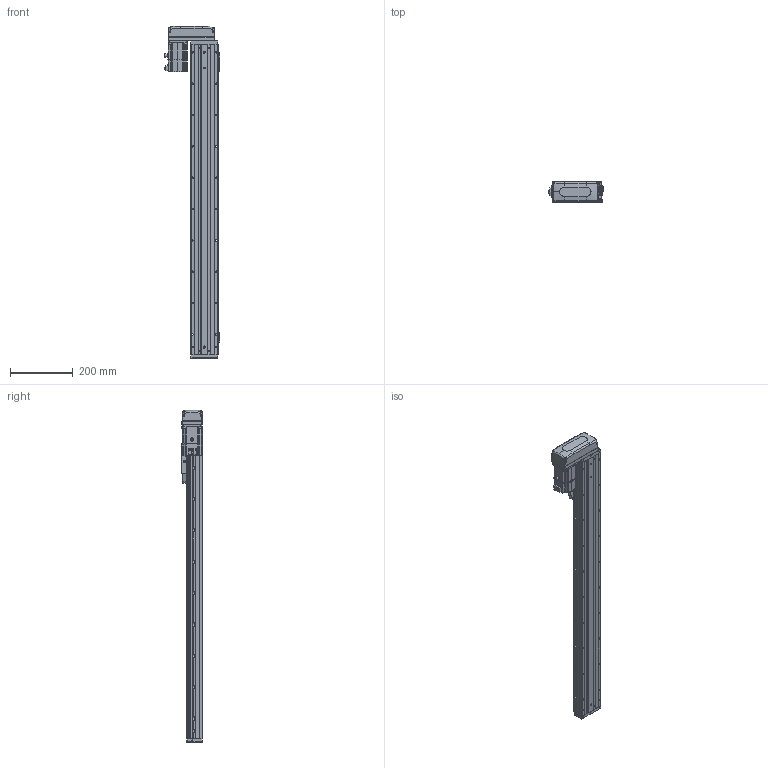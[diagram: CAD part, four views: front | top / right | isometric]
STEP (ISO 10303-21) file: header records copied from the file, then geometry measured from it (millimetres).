
FILE_DESCRIPTION (( 'STEP AP203' ), '1' );
FILE_NAME ('CTHA86-800-BR-M20-C4L.step', '2022-04-26T01:01:19', ( '微软用户' ), ( '微软中国' ), 'SwSTEP 2.0', 'SolidWorks 2020', '' );
FILE_SCHEMA (( 'CONFIG_CONTROL_DESIGN' ));
Length unit declared in the file: millimetre
Products named in the file (21): EE_SX911P_R; CTHA86-033; _X2_4E0983F1_X0_200W_1; CTHA60-017; CTHA86-800-BR-M20-C4L; CTHA86-002; CTHA60-021; KTHA86-001_990; CTHA86-031; GBT77-2000 M3×3; KTHA86-004; CTHA86-030; GBT 70.1-M3×20; KTHA86-005; GBT 70.3-M3℅6; GBT70.1 M5℅16; GBT 70.1-M3℅6; GB¨uT 70.2-M3¡Á5_M3¡Á6; CTHA86-015-1_CTHA86-015-2; GBT 70.1-M3×16; CTHA60-016
Assembly tree (66 placements, depth 2):
  CTHA86-800-BR-M20-C4L
    KTHA86-001_990
    KTHA86-004
    KTHA86-005
    GB¨uT 70.2-M3¡Á5_M3¡Á6  x10
    EE_SX911P_R  x3
    CTHA60-017  x3
    CTHA60-021  x2
    GBT77-2000 M3×3  x6
    GBT 70.1-M3×20
    GBT70.1 M5℅16  x14
    GBT 70.1-M3×16  x5
    GBT 70.1-M3℅6  x6
    CTHA60-016  x2
    _X2_4E0983F1_X0_200W_1
    CTHA86-002
    CTHA86-031
    CTHA86-030  x2
    GBT 70.3-M3℅6  x4
    CTHA86-015-1_CTHA86-015-2
    CTHA86-033
Bounding box: 178.52 x 68 x 1059 mm (x, y, z)
Volume: 4037595.2 mm3; surface area: 692323.4 mm2
Topology: 68 solids, 68 shells, 2826 faces, 6764 edges, 4168 vertices
Faces by surface type: plane 1487, cylinder 735, cone 373, torus 132, bspline 75, sphere 24
Entity records: 50373 total; most frequent: CARTESIAN_POINT 9731, DIRECTION 7849, ORIENTED_EDGE 7628, EDGE_CURVE 3814, AXIS2_PLACEMENT_3D 2670, LINE 2509, VECTOR 2509, VERTEX_POINT 2400
